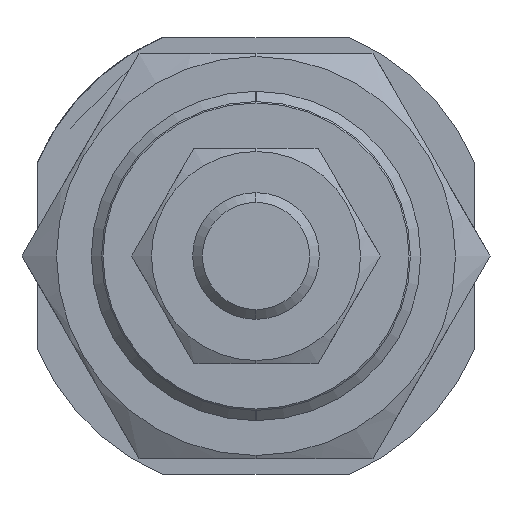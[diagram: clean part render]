
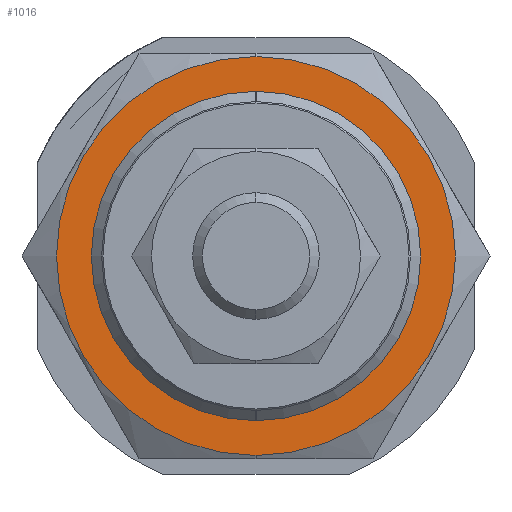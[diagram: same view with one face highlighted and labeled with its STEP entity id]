
A CAD part, left-side view. The second image highlights one B-rep face of the part: STEP entity #1016.
In plain terms, the highlighted planar face has unit normal (-1, 0, 0).
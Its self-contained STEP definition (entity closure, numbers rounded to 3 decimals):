
#58 = DIRECTION ( 'NONE',  ( 1., 0., 0. ) ) ;
#94 = DIRECTION ( 'NONE',  ( 0., 0., -1. ) ) ;
#107 = CARTESIAN_POINT ( 'NONE',  ( -11., 0., 0. ) ) ;
#213 = VERTEX_POINT ( 'NONE', #3626 ) ;
#343 = CARTESIAN_POINT ( 'NONE',  ( -11., 0., -13. ) ) ;
#479 = CARTESIAN_POINT ( 'NONE',  ( -11., 0., 0. ) ) ;
#521 = CARTESIAN_POINT ( 'NONE',  ( -11., 0., 0. ) ) ;
#980 = CARTESIAN_POINT ( 'NONE',  ( -11., 0., 0. ) ) ;
#1016 = ADVANCED_FACE ( 'NONE', ( #4226, #4197 ), #3823, .F. ) ;
#1077 = EDGE_LOOP ( 'NONE', ( #3563, #5291 ) ) ;
#1200 = CARTESIAN_POINT ( 'NONE',  ( -11., 0., 13. ) ) ;
#1498 = VERTEX_POINT ( 'NONE', #1200 ) ;
#1768 = CARTESIAN_POINT ( 'NONE',  ( -11., 0., 15.75 ) ) ;
#1773 = DIRECTION ( 'NONE',  ( 1., 0., 0. ) ) ;
#1787 = DIRECTION ( 'NONE',  ( 0., 1., 0. ) ) ;
#1801 = DIRECTION ( 'NONE',  ( 0., 0., -1. ) ) ;
#1847 = CIRCLE ( 'NONE', #4908, 15.75 ) ;
#2038 = EDGE_CURVE ( 'NONE', #3350, #1498, #2432, .T. ) ;
#2162 = AXIS2_PLACEMENT_3D ( 'NONE', #980, #3413, #94 ) ;
#2432 = CIRCLE ( 'NONE', #2162, 13. ) ;
#2435 = ORIENTED_EDGE ( 'NONE', *, *, #3471, .T. ) ;
#2519 = EDGE_LOOP ( 'NONE', ( #2435, #4102 ) ) ;
#2578 = AXIS2_PLACEMENT_3D ( 'NONE', #479, #3003, #1787 ) ;
#3003 = DIRECTION ( 'NONE',  ( 1., 0., 0. ) ) ;
#3350 = VERTEX_POINT ( 'NONE', #343 ) ;
#3391 = EDGE_CURVE ( 'NONE', #5206, #213, #5365, .T. ) ;
#3413 = DIRECTION ( 'NONE',  ( 1., 0., 0. ) ) ;
#3471 = EDGE_CURVE ( 'NONE', #1498, #3350, #4754, .T. ) ;
#3563 = ORIENTED_EDGE ( 'NONE', *, *, #4114, .F. ) ;
#3626 = CARTESIAN_POINT ( 'NONE',  ( -11., 0., -15.75 ) ) ;
#3723 = AXIS2_PLACEMENT_3D ( 'NONE', #107, #1773, #1801 ) ;
#3823 = PLANE ( 'NONE',  #2578 ) ;
#4102 = ORIENTED_EDGE ( 'NONE', *, *, #2038, .T. ) ;
#4114 = EDGE_CURVE ( 'NONE', #213, #5206, #1847, .T. ) ;
#4197 = FACE_BOUND ( 'NONE', #2519, .T. ) ;
#4216 = DIRECTION ( 'NONE',  ( 0., 0., -1. ) ) ;
#4226 = FACE_OUTER_BOUND ( 'NONE', #1077, .T. ) ;
#4552 = DIRECTION ( 'NONE',  ( 1., 0., 0. ) ) ;
#4754 = CIRCLE ( 'NONE', #3723, 13. ) ;
#4908 = AXIS2_PLACEMENT_3D ( 'NONE', #5349, #4552, #4966 ) ;
#4935 = AXIS2_PLACEMENT_3D ( 'NONE', #521, #58, #4216 ) ;
#4966 = DIRECTION ( 'NONE',  ( 0., 0., -1. ) ) ;
#5206 = VERTEX_POINT ( 'NONE', #1768 ) ;
#5291 = ORIENTED_EDGE ( 'NONE', *, *, #3391, .F. ) ;
#5349 = CARTESIAN_POINT ( 'NONE',  ( -11., 0., 0. ) ) ;
#5365 = CIRCLE ( 'NONE', #4935, 15.75 ) ;
